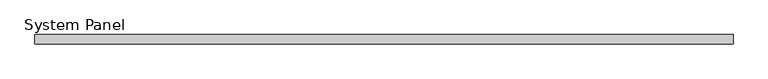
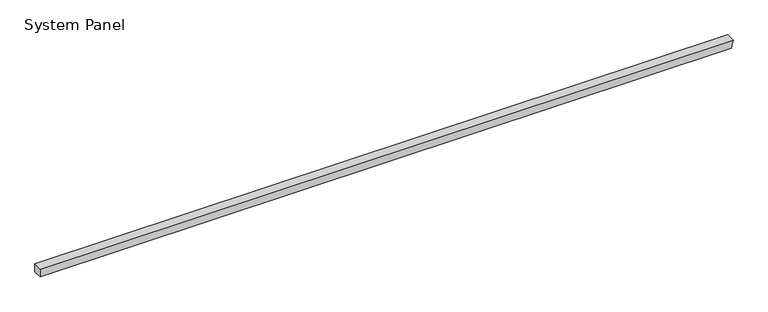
"""IFC4 building model written with IfcOpenShell, lengths in millimetres: plate geometry, System Panel : InsulWall_90mm_Plain_Surfmist."""

from ifc_helpers import new_model, si_unit, frame, origin, place, context, project, spatial, polyline, outline, extrude, source, transform, mapped, element, save


def system_panel_44df06c4(model_context):
    return source(origin(), model_context, "Body", "SweptSolid", [
        extrude(outline(polyline([(0.0, -3395.0), (0.0, 3377.6149856), (79.9704237, 3395.0), (79.9704237, -3395.0), (0.0, -3395.0)])), frame((0.0, -90.0, 0.0), z_axis=(0.0, 1.0, 0.0), x_axis=(0.0, 0.0, 1.0)), (0.0, 0.0, 1.0), 90.0),
    ])


if __name__ == "__main__":
    model = new_model("IFC4")
    model_context = context("Model", 3, world=origin())
    ifc_project = project(units=[si_unit("LENGTHUNIT", "METRE", prefix="MILLI")], contexts=[model_context])
    site = spatial("IfcSite", under=ifc_project)
    building = spatial("IfcBuilding", under=site)
    placement = place(None, origin())
    system_panel_shape = system_panel_44df06c4(model_context)
    element("IfcPlate", 1, ObjectType="System Panel : InsulWall_90mm_Plain_Surfmist", at=placement, inside=building, context=model_context, shape_type="MappedRepresentation", body=[
        mapped(system_panel_shape, transform((0.0, 0.0, 0.0), x_axis=(1.0, 0.0, 0.0), y_axis=(0.0, 1.0, 0.0), z_axis=(0.0, 0.0, 1.0))),
    ])
    save(model, "model.ifc")
